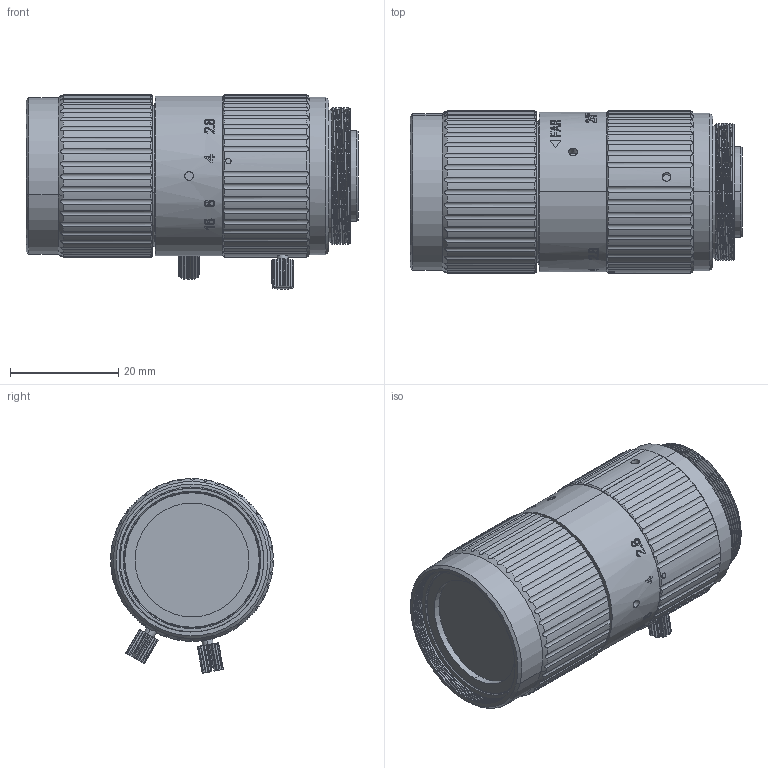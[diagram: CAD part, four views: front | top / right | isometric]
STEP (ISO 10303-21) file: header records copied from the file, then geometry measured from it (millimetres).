
FILE_DESCRIPTION((''),'2;1');
FILE_NAME('50MM000_ASM','2022-04-03T10:41:52',('Administrator'),(''),'CREO PARAMETRIC BY PTC INC, 2020053','CREO PARAMETRIC BY PTC INC, 2020053','');
FILE_SCHEMA(('CONFIG_CONTROL_DESIGN'));
Products named in the file (1): 50MM000_ASM
Bounding box: 61.25 x 30 x 35.91 mm (x, y, z)
Volume: 19412.9 mm3; surface area: 24875.8 mm2
Topology: 3 solids, 7 shells, 1276 faces, 3499 edges, 2309 vertices
Faces by surface type: cylinder 477, plane 338, bspline 291, cone 123, extrusion 41, sphere 6
Entity records: 80594 total; most frequent: CARTESIAN_POINT 50644, ORIENTED_EDGE 6992, DIRECTION 5019, EDGE_CURVE 3499, VERTEX_POINT 2309, AXIS2_PLACEMENT_3D 1785, VECTOR 1449, LINE 1408
